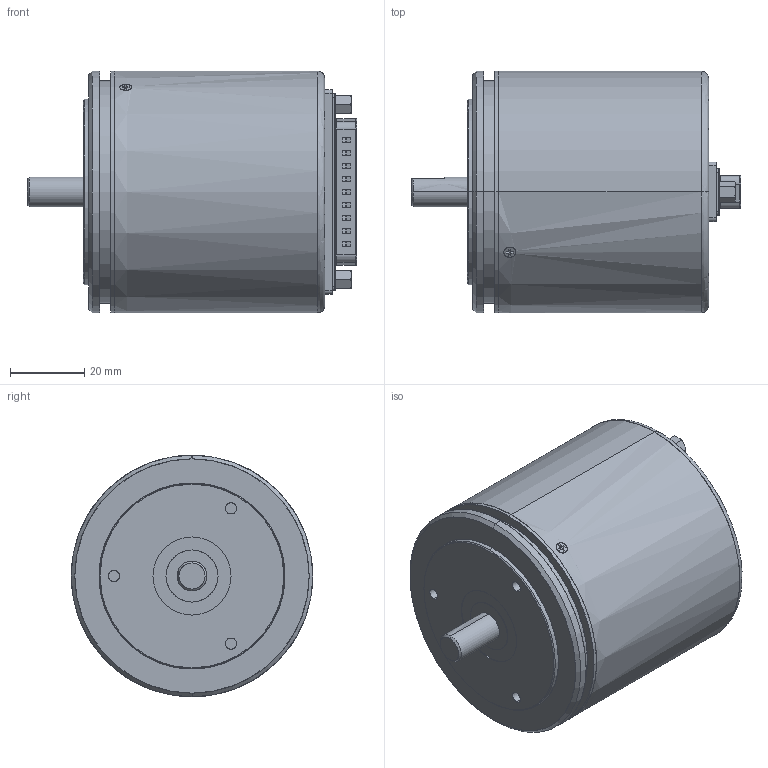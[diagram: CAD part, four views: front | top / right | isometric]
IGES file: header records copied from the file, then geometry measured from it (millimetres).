
Start section: SolidWorks IGES file using analytic representation for surfaces
Bounding box: 88.6 x 65 x 65 mm (x, y, z)
Surface area: 33232.5 mm2 (no closed solid volume)
Topology: 0 solids, 0 shells, 833 faces, 6945 edges, 6895 vertices
Faces by surface type: bspline 421, revolution 412
